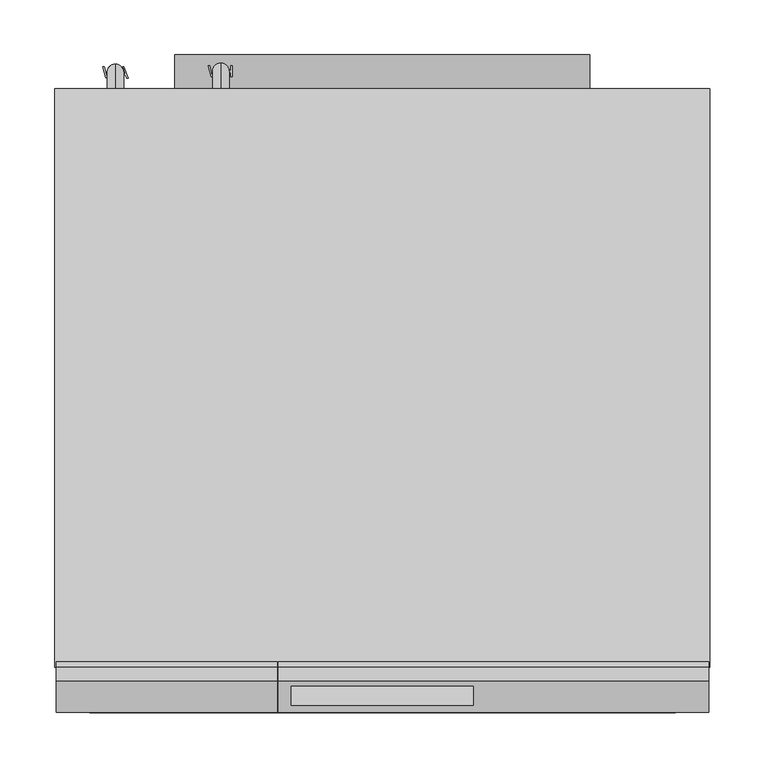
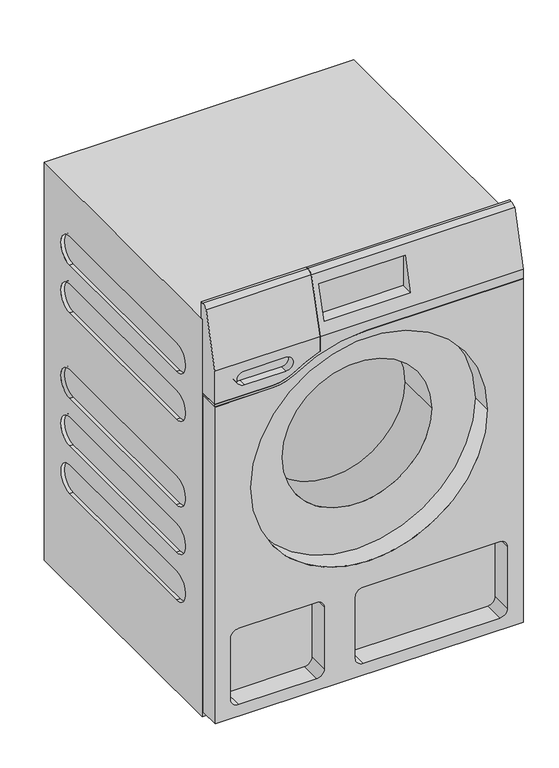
"""IFC4 building model written with IfcOpenShell, lengths in millimetres: proxy geometry, 10994900_RU_WCR870WPS_LW : 11CR8706_RU_10994900_WCR870WPS_LW."""

from ifc_helpers import new_model, si_unit, point, frame, frame_2d, origin, origin_with_axes, place, context, project, spatial, polyline, circle_curve, ellipse_curve, trimmed, segment, composite_curve, outline, extrude, source, transform, mapped, element, save
from ifc_brep_helpers import plane_surface, cylinder_surface, revolved_surface, advanced_brep


def specialty_equipment_badbdaf0(model_context):
    return source(origin(), model_context, "Body", "SolidModel", [
        advanced_brep(
        [(-185.7266361, -600.0, 669.0), (-185.7266361, -560.0, 669.0), (-147.869315, -560.0, 679.5792254), (-147.869315, -600.0, 679.5792254), (-95.5, -560.0, 706.6365191), (-95.5, -600.0, 706.6365191), (-297.0, -554.0, 850.0), (-297.0, -554.0, 818.0), (-297.0, -560.0, 818.0), (-297.0, -560.0, 669.0), (-297.0, -600.0, 669.0), (-297.0, -600.0, 736.159111), (-297.0, -570.9595268, 844.5396324), (-297.0, -558.3743789, 850.0), (-95.5, -558.3743789, 850.0), (-95.5, -554.0, 850.0), (-95.5, -600.0, 736.159111), (-240.5, -600.0, 717.0), (-160.5, -600.0, 717.0), (-160.5, -600.0, 689.0), (-240.5, -600.0, 689.0), (-95.5, -560.0, 818.0), (-95.5, -554.0, 818.0), (-95.5, -570.9595268, 844.5396324), (-160.5, -585.0, 717.0), (-240.5, -585.0, 717.0), (-240.5, -585.0, 689.0), (-160.5, -585.0, 689.0)],
        [
            (0, 1),
            (1, 2, circle_curve(frame((-185.7266361, -560.0, 742.0250428), z_axis=(0.0, -1.0, 0.0), x_axis=(-1.0, 0.0, 0.0)), 73.0250428)),
            (2, 3),
            (3, 0, circle_curve(frame((-185.7266361, -600.0, 742.0250428), z_axis=(0.0, 1.0, 0.0), x_axis=(-1.0, 0.0, 0.0)), 73.0250428)),
            (2, 4, circle_curve(frame((-5.7577941, -560.0, 468.7317583), z_axis=(0.0, 1.0, 0.0), x_axis=(-1.0, 0.0, 0.0)), 254.2682417)),
            (4, 5),
            (5, 3, circle_curve(frame((-5.7577941, -600.0, 468.7317583), z_axis=(0.0, -1.0, 0.0), x_axis=(-1.0, 0.0, 0.0)), 254.2682417)),
            (6, 7),
            (7, 8),
            (8, 9),
            (9, 10),
            (10, 11),
            (11, 12),
            (12, 13, circle_curve(frame((-297.0, -558.3480923, 832.7059991), z_axis=(-1.0, 0.0, 0.0), x_axis=(0.0, 0.0, 1.0)), 17.2940209)),
            (13, 6),
            (13, 14),
            (14, 15),
            (15, 6),
            (10, 0),
            (5, 16),
            (16, 11),
            (17, 18),
            (18, 19, circle_curve(frame((-160.5, -600.0, 703.0), z_axis=(0.0, 1.0, 0.0), x_axis=(-1.0, 0.0, 0.0)), 14.0)),
            (19, 20),
            (20, 17, circle_curve(frame((-240.5, -600.0, 703.0), z_axis=(0.0, 1.0, 0.0), x_axis=(-1.0, 0.0, 0.0)), 14.0)),
            (8, 21),
            (21, 4),
            (1, 9),
            (7, 22),
            (22, 21),
            (15, 22),
            (12, 23),
            (23, 14, circle_curve(frame((-95.5, -558.3480923, 832.7059991), z_axis=(-1.0, 0.0, 0.0), x_axis=(0.0, 0.0, 1.0)), 17.2940209)),
            (24, 25),
            (25, 26, circle_curve(frame((-240.5, -585.0, 703.0), z_axis=(0.0, -1.0, 0.0), x_axis=(-1.0, 0.0, 0.0)), 14.0)),
            (26, 27),
            (27, 24, circle_curve(frame((-160.5, -585.0, 703.0), z_axis=(0.0, -1.0, 0.0), x_axis=(-1.0, 0.0, 0.0)), 14.0)),
            (24, 18),
            (17, 25),
            (20, 26),
            (19, 27),
            (23, 16),
        ],
        [
            cylinder_surface(frame((-185.7266361, -600.0, 742.0250428), z_axis=(0.0, -1.0, 0.0), x_axis=(-1.0, 0.0, 0.0)), 73.0250428),
            revolved_surface(polyline([(-260.0260358, -560.0, 468.7317583), (-260.0260358, -600.0, 468.7317583)]), (-5.7577941, -600.0, 468.7317583), (0.0, 1.0, 0.0)),
            plane_surface(frame((-297.0, -558.3743789, 850.0), z_axis=(-1.0, 0.0, 0.0), x_axis=(0.0, 1.0, 0.0))),
            plane_surface(frame((297.0, -554.0, 850.0), z_axis=(0.0, 0.0, 1.0), x_axis=(-1.0, 0.0, 0.0))),
            plane_surface(frame((297.0, -600.0, 736.159111), z_axis=(0.0, -1.0, 0.0), x_axis=(-1.0, 0.0, 0.0))),
            plane_surface(frame((297.0, -560.0, 658.0), z_axis=(0.0, 1.0, 0.0), x_axis=(-1.0, 0.0, 0.0))),
            plane_surface(frame((297.0, -560.0, 818.0), z_axis=(0.0, 0.0, -1.0), x_axis=(-1.0, 0.0, 0.0))),
            plane_surface(frame((297.0, -554.0, 818.0), z_axis=(0.0, 1.0, 0.0), x_axis=(-1.0, 0.0, 0.0))),
            cylinder_surface(frame((-297.0, -558.3480923, 832.7059991), z_axis=(1.0, 0.0, 0.0), x_axis=(0.0, 0.0, 1.0)), 17.2940209),
            plane_surface(frame((-174.5, -585.0, 703.0), z_axis=(0.0, -1.0, 0.0), x_axis=(0.0, 0.0, 1.0))),
            plane_surface(frame((-240.5, -585.0, 717.0), z_axis=(0.0, 0.0, -1.0), x_axis=(0.0, -1.0, 0.0))),
            revolved_surface(polyline([(-254.5, -585.0, 703.0), (-254.5, -600.0, 703.0)]), (-240.5, -625.7120467, 703.0), (0.0, 1.0, 0.0)),
            plane_surface(frame((-160.5, -585.0, 689.0), z_axis=(0.0, 0.0, 1.0), x_axis=(0.0, -1.0, 0.0))),
            revolved_surface(polyline([(-174.5, -585.0, 703.0), (-174.5, -600.0, 703.0)]), (-160.5, -625.7120467, 703.0), (0.0, 1.0, 0.0)),
            plane_surface(frame((-95.5, -547.2464252, 706.6365191), z_axis=(1.0, 0.0, 0.0), x_axis=(0.0, -1.0, 0.0))),
            plane_surface(frame((297.0, -570.9595268, 844.5396324), z_axis=(0.0, -0.9659258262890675, 0.25881904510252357), x_axis=(-1.0, 0.0, 0.0))),
            plane_surface(frame((-297.0, -547.2464252, 669.0), z_axis=(0.0, 0.0, -1.0), x_axis=(0.0, -1.0, 0.0))),
        ],
        [
            (0, [[1, 2, 3, 4]]),
            (1, [[-3, 5, 6, 7]]),
            (2, [[8, 9, 10, 11, 12, 13, 14, 15]]),
            (3, [[-15, 16, 17, 18]]),
            (4, [[-12, 19, -4, -7, 20, 21], [22, 23, 24, 25]]),
            (5, [[-10, 26, 27, -5, -2, 28]]),
            (6, [[-9, 29, 30, -26]]),
            (7, [[-8, -18, 31, -29]]),
            (8, [[-14, 32, 33, -16]]),
            (9, [[34, 35, 36, 37]]),
            (10, [[-34, 38, -22, 39]]),
            (11, [[-35, -39, -25, 40]]),
            (12, [[-36, -40, -24, 41]]),
            (13, [[-37, -41, -23, -38]]),
            (14, [[-6, -27, -30, -31, -17, -33, 42, -20]]),
            (15, [[-13, -21, -42, -32]]),
            (16, [[-1, -19, -11, -28]]),
        ],
    ),
        advanced_brep(
        [(297.0, -554.0, 850.0), (297.0, -558.3743789, 850.0), (297.0, -570.9595268, 844.5396324), (297.0, -600.0, 736.159111), (297.0, -600.0, 718.0), (297.0, -560.0, 718.0), (297.0, -560.0, 818.0), (297.0, -554.0, 818.0), (-297.0, -560.0, 664.0), (-297.0, -600.0, 664.0), (-297.0, -600.0, 668.0), (-297.0, -560.0, 668.0), (-94.5, -554.0, 850.0), (-94.5, -558.3743789, 850.0), (-94.5, -600.0, 736.159111), (-94.5, -600.0, 705.9439484), (-147.3302559, -600.0, 678.7366161), (-185.7266361, -600.0, 668.0), (-186.2266361, -600.0, 664.0), (-145.1722991, -600.0, 675.3673121), (-5.7577941, -600.0, 718.0), (-5.7577941, -560.0, 718.0), (-145.1722991, -560.0, 675.3673121), (-186.2266361, -560.0, 664.0), (-185.7266361, -560.0, 668.0), (-147.3302559, -560.0, 678.7366161), (-94.5, -560.0, 705.9439484), (-94.5, -560.0, 818.0), (-94.5, -554.0, 818.0), (-94.5, -570.9595268, 844.5396324), (83.0, -570.0, 825.0), (-83.0, -570.0, 825.0), (-83.0, -570.0, 760.0), (83.0, -570.0, 760.0), (83.0, -593.611853, 760.0), (83.0, -576.1951555, 825.0), (-83.0, -593.611853, 760.0), (-83.0, -576.1951555, 825.0)],
        [
            (0, 1),
            (1, 2, circle_curve(frame((297.0, -558.3480923, 832.7059991), z_axis=(1.0, 0.0, 0.0), x_axis=(0.0, 0.0, 1.0)), 17.2940209)),
            (2, 3),
            (3, 4),
            (4, 5),
            (5, 6),
            (6, 7),
            (7, 0),
            (8, 9),
            (9, 10),
            (10, 11),
            (11, 8),
            (0, 12),
            (12, 13),
            (13, 1),
            (3, 14),
            (14, 15),
            (15, 16, circle_curve(frame((-5.7577941, -600.0, 468.7317583), z_axis=(0.0, -1.0, 0.0), x_axis=(-1.0, 0.0, 0.0)), 253.2682417)),
            (16, 17, circle_curve(frame((-185.7266361, -600.0, 742.0250428), z_axis=(0.0, 1.0, 0.0), x_axis=(-1.0, 0.0, 0.0)), 74.0250428)),
            (17, 10),
            (9, 18),
            (18, 19, circle_curve(frame((-186.2266361, -600.0, 743.8198531), z_axis=(0.0, -1.0, 0.0), x_axis=(-1.0, 0.0, 0.0)), 79.8198531)),
            (19, 20, circle_curve(frame((-5.7577941, -600.0, 468.7317583), z_axis=(0.0, 1.0, 0.0), x_axis=(-1.0, 0.0, 0.0)), 249.2682417)),
            (20, 4),
            (5, 21),
            (21, 22, circle_curve(frame((-5.7577941, -560.0, 468.7317583), z_axis=(0.0, -1.0, 0.0), x_axis=(-1.0, 0.0, 0.0)), 249.2682417)),
            (22, 23, circle_curve(frame((-186.2266361, -560.0, 743.8198531), z_axis=(0.0, 1.0, 0.0), x_axis=(-1.0, 0.0, 0.0)), 79.8198531)),
            (23, 8),
            (11, 24),
            (24, 25, circle_curve(frame((-185.7266361, -560.0, 742.0250428), z_axis=(0.0, -1.0, 0.0), x_axis=(-1.0, 0.0, 0.0)), 74.0250428)),
            (25, 26, circle_curve(frame((-5.7577941, -560.0, 468.7317583), z_axis=(0.0, 1.0, 0.0), x_axis=(-1.0, 0.0, 0.0)), 253.2682417)),
            (26, 27),
            (27, 6),
            (27, 28),
            (28, 7),
            (28, 12),
            (19, 22),
            (21, 20),
            (13, 29, circle_curve(frame((-94.5, -558.3480923, 832.7059991), z_axis=(1.0, 0.0, 0.0), x_axis=(0.0, 0.0, 1.0)), 17.2940209)),
            (29, 2),
            (26, 15),
            (14, 29),
            (30, 31),
            (31, 32),
            (32, 33),
            (33, 30),
            (33, 34),
            (34, 35),
            (35, 30),
            (32, 36),
            (36, 34),
            (31, 37),
            (37, 36),
            (35, 37),
            (18, 23),
            (25, 16),
            (24, 17),
        ],
        [
            plane_surface(frame((297.0, -558.3743789, 850.0), z_axis=(1.0, 0.0, 0.0), x_axis=(0.0, -1.0, 0.0))),
            plane_surface(frame((-297.0, -558.3743789, 850.0), z_axis=(-1.0, 0.0, 0.0), x_axis=(0.0, 1.0, 0.0))),
            plane_surface(frame((297.0, -554.0, 850.0), z_axis=(0.0, 0.0, 1.0), x_axis=(-1.0, 0.0, 0.0))),
            plane_surface(frame((297.0, -600.0, 736.159111), z_axis=(0.0, -1.0, 0.0), x_axis=(-1.0, 0.0, 0.0))),
            plane_surface(frame((297.0, -560.0, 658.0), z_axis=(0.0, 1.0, 0.0), x_axis=(-1.0, 0.0, 0.0))),
            plane_surface(frame((297.0, -560.0, 818.0), z_axis=(0.0, 0.0, -1.0), x_axis=(-1.0, 0.0, 0.0))),
            plane_surface(frame((297.0, -554.0, 818.0), z_axis=(0.0, 1.0, 0.0), x_axis=(-1.0, 0.0, 0.0))),
            revolved_surface(polyline([(-255.02603580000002, -560.0, 468.7317583), (-255.02603580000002, -600.0, 468.7317583)]), (-5.7577941, -600.0, 468.7317583), (0.0, 1.0, 0.0)),
            plane_surface(frame((-5.7577941, -537.827873, 718.0), z_axis=(0.0, 0.0, -1.0), x_axis=(0.0, -1.0, 0.0))),
            cylinder_surface(frame((-297.0, -558.3480923, 832.7059991), z_axis=(1.0, 0.0, 0.0), x_axis=(0.0, 0.0, 1.0)), 17.2940209),
            plane_surface(frame((-94.5, -547.2464252, 852.4552379), z_axis=(-1.0, 0.0, 0.0), x_axis=(0.0, -1.0, 0.0))),
            plane_surface(frame((83.0, -570.0, 825.0), z_axis=(0.0, -1.0, 0.0), x_axis=(0.0, 0.0, -1.0))),
            plane_surface(frame((83.0, -570.0, 825.0), z_axis=(-1.0, 0.0, 0.0), x_axis=(0.0, -1.0, 0.0))),
            plane_surface(frame((83.0, -570.0, 760.0), z_axis=(0.0, 0.0, 1.0), x_axis=(0.0, -1.0, 0.0))),
            plane_surface(frame((-83.0, -570.0, 760.0), z_axis=(1.0, 0.0, 0.0), x_axis=(0.0, -1.0, 0.0))),
            plane_surface(frame((-83.0, -570.0, 825.0), z_axis=(0.0, 0.0, -1.0), x_axis=(0.0, -1.0, 0.0))),
            plane_surface(frame((297.0, -570.9595268, 844.5396324), z_axis=(0.0, -0.9659258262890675, 0.25881904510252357), x_axis=(-1.0, 0.0, 0.0))),
            cylinder_surface(frame((-186.2266361, -600.0, 743.8198531), z_axis=(0.0, -1.0, 0.0), x_axis=(-1.0, 0.0, 0.0)), 79.8198531),
            plane_surface(frame((-297.0, -537.827873, 664.0), z_axis=(0.0, 0.0, -1.0), x_axis=(0.0, -1.0, 0.0))),
            cylinder_surface(frame((-5.7577941, -600.0, 468.7317583), z_axis=(0.0, -1.0, 0.0), x_axis=(-1.0, 0.0, 0.0)), 253.2682417),
            revolved_surface(polyline([(-259.7516789, -560.0, 742.0250428), (-259.7516789, -600.0, 742.0250428)]), (-185.7266361, -600.0, 742.0250428), (0.0, 1.0, 0.0)),
            plane_surface(frame((-185.7266361, -547.2464252, 668.0), z_axis=(0.0, 0.0, 1.0), x_axis=(0.0, -1.0, 0.0))),
        ],
        [
            (0, [[1, 2, 3, 4, 5, 6, 7, 8]]),
            (1, [[9, 10, 11, 12]]),
            (2, [[-1, 13, 14, 15]]),
            (3, [[-4, 16, 17, 18, 19, 20, -10, 21, 22, 23, 24]]),
            (4, [[-6, 25, 26, 27, 28, -12, 29, 30, 31, 32, 33]]),
            (5, [[-7, -33, 34, 35]]),
            (6, [[-8, -35, 36, -13]]),
            (7, [[37, -26, 38, -23]]),
            (8, [[-38, -25, -5, -24]]),
            (9, [[-2, -15, 39, 40]]),
            (10, [[41, -17, 42, -39, -14, -36, -34, -32]]),
            (11, [[43, 44, 45, 46]]),
            (12, [[-46, 47, 48, 49]]),
            (13, [[-45, 50, 51, -47]]),
            (14, [[-44, 52, 53, -50]]),
            (15, [[-43, -49, 54, -52]]),
            (16, [[-3, -40, -42, -16], [-48, -51, -53, -54]]),
            (17, [[55, -27, -37, -22]]),
            (18, [[-55, -21, -9, -28]]),
            (19, [[-41, -31, 56, -18]]),
            (20, [[-56, -30, 57, -19]]),
            (21, [[-57, -29, -11, -20]]),
        ],
    ),
        extrude(outline(composite_curve([segment(polyline([(663.5, -296.5), (18.0, -296.5), (18.0, 296.5), (717.5, 296.5), (717.5, -5.7577941)]), True, "CONTINUOUS"), segment(trimmed(circle_curve(frame_2d((468.7317583, -5.7577941)), 248.7682417), [point((717.5, -5.7577941))], [point((674.9462734, -144.9023658))], False, "CARTESIAN"), True, "CONTINUOUS"), segment(trimmed(circle_curve(frame_2d((742.0250428, -185.7266361)), 78.5250428), [point((674.9462734, -144.9023658))], [point((663.5, -185.7266361))], True, "CARTESIAN"), True, "CONTINUOUS"), segment(polyline([(663.5, -185.7266361), (663.5, -296.5)]), True, "CONTINUOUS")], self_intersect=False), holes=[composite_curve([segment(trimmed(circle_curve(frame_2d((475.0, 0.0)), 228.0), [point((475.0, -228.0))], [point((475.0, 228.0))], True, "CARTESIAN"), True, "CONTINUOUS"), segment(trimmed(circle_curve(frame_2d((475.0, 0.0)), 228.0), [point((475.0, 228.0))], [point((475.0, -228.0))], True, "CARTESIAN"), True, "CONTINUOUS")], self_intersect=False), composite_curve([segment(polyline([(182.0, 266.5), (57.0, 266.5)]), True, "CONTINUOUS"), segment(trimmed(circle_curve(frame_2d((57.0, 251.5)), 15.0), [point((57.0, 266.5))], [point((42.0, 251.5))], True, "CARTESIAN"), True, "CONTINUOUS"), segment(polyline([(42.0, 251.5), (42.0, -11.5)]), True, "CONTINUOUS"), segment(trimmed(circle_curve(frame_2d((57.0, -11.5)), 15.0), [point((42.0, -11.5))], [point((57.0, -26.5))], True, "CARTESIAN"), True, "CONTINUOUS"), segment(polyline([(57.0, -26.5), (182.0, -26.5)]), True, "CONTINUOUS"), segment(trimmed(circle_curve(frame_2d((182.0, -11.5)), 15.0), [point((182.0, -26.5))], [point((197.0, -11.5))], True, "CARTESIAN"), True, "CONTINUOUS"), segment(polyline([(197.0, -11.5), (197.0, 251.5)]), True, "CONTINUOUS"), segment(trimmed(circle_curve(frame_2d((182.0, 251.5)), 15.0), [point((197.0, 251.5))], [point((182.0, 266.5))], True, "CARTESIAN"), True, "CONTINUOUS")], self_intersect=False), composite_curve([segment(polyline([(182.0, -86.5), (57.0, -86.5)]), True, "CONTINUOUS"), segment(trimmed(circle_curve(frame_2d((57.0, -101.5)), 15.0), [point((57.0, -86.5))], [point((42.0, -101.5))], True, "CARTESIAN"), True, "CONTINUOUS"), segment(polyline([(42.0, -101.5), (42.0, -251.5)]), True, "CONTINUOUS"), segment(trimmed(circle_curve(frame_2d((57.0, -251.5)), 15.0), [point((42.0, -251.5))], [point((57.0, -266.5))], True, "CARTESIAN"), True, "CONTINUOUS"), segment(polyline([(57.0, -266.5), (182.0, -266.5)]), True, "CONTINUOUS"), segment(trimmed(circle_curve(frame_2d((182.0, -251.5)), 15.0), [point((182.0, -266.5))], [point((197.0, -251.5))], True, "CARTESIAN"), True, "CONTINUOUS"), segment(polyline([(197.0, -251.5), (197.0, -101.5)]), True, "CONTINUOUS"), segment(trimmed(circle_curve(frame_2d((182.0, -101.5)), 15.0), [point((197.0, -101.5))], [point((182.0, -86.5))], True, "CARTESIAN"), True, "CONTINUOUS")], self_intersect=False)]), frame((0.0, -600.0, 0.0), z_axis=(0.0, 1.0, 0.0), x_axis=(0.0, 0.0, 1.0)), (0.0, 0.0, 1.0), 40.0),
        extrude(outline(composite_curve([segment(trimmed(circle_curve(frame_2d((172.0, 0.0)), 85.0), [point((128.0, -72.7255113))], [point((128.0, 72.7255113))], False, "CARTESIAN"), True, "CONTINUOUS"), segment(polyline([(128.0, 72.7255113), (457.0, 186.7618805)]), True, "CONTINUOUS"), segment(trimmed(circle_curve(frame_2d((486.0, 0.0)), 189.0), [point((457.0, 186.7618805))], [point((457.0, -186.7618805))], False, "CARTESIAN"), True, "CONTINUOUS"), segment(polyline([(457.0, -186.7618805), (128.0, -72.7255113)]), True, "CONTINUOUS")], self_intersect=False)), frame((0.0, -32.0, 0.0), z_axis=(0.0, 1.0, 0.0), x_axis=(0.0, 0.0, 1.0)), (0.0, 0.0, 1.0), 31.0),
        extrude(outline(polyline([(-245.0283197, -21.9198802), (-247.6226621, -13.1308402), (-250.3496859, -21.9195554), (-251.6847859, -21.9195554), (-254.4297172, -11.8631004), (-253.1339679, -11.8631004), (-251.0443144, -20.5032988), (-248.5340813, -11.857379), (-246.6711164, -11.857379), (-244.1552565, -20.5022346), (-242.0681971, -11.8564437), (-240.7754796, -11.8564437), (-243.5175667, -21.9198802), (-245.0283197, -21.9198802)])), frame((0.0, 0.0, 722.0), z_axis=(0.0, 0.0, 1.0), x_axis=(1.0, 0.0, 0.0)), (0.0, 0.0, 1.0), 1.0),
        extrude(outline(polyline([(-239.0721098, -22.0032768), (-240.4069745, -22.0032768), (-236.3935979, -11.9549404), (-235.3188514, -11.9549404), (-231.3155433, -21.9958861), (-232.6216403, -21.9958861), (-233.7882604, -18.865268), (-237.929968, -18.865268), (-239.0721098, -22.0032768)]), holes=[polyline([(-237.4730851, -17.6099926), (-234.256037, -17.6099926), (-235.8835115, -13.2426749), (-237.4730851, -17.6099926)])]), frame((0.0, 0.0, 722.0), z_axis=(0.0, 0.0, 1.0), x_axis=(1.0, 0.0, 0.0)), (0.0, 0.0, 1.0), 1.0),
        extrude(outline(polyline([(-149.0371951, -21.0084005), (-151.6315375, -12.2193606), (-154.3585613, -21.0080758), (-155.6936613, -21.0080758), (-158.4385926, -10.9516208), (-157.1428433, -10.9516208), (-155.0531898, -19.5918192), (-152.5429567, -10.9458994), (-150.6799918, -10.9458994), (-148.1641319, -19.590755), (-146.0770725, -10.9449641), (-144.784355, -10.9449641), (-147.5264421, -21.0084005), (-149.0371951, -21.0084005)])), frame((0.0, 0.0, 728.0), z_axis=(0.0, 0.0, 1.0), x_axis=(1.0, 0.0, 0.0)), (0.0, 0.0, 1.0), 1.0),
        extrude(outline(polyline([(-137.7520367, -21.0), (-137.7520367, -17.5380382), (-139.4320631, -15.9333791), (-143.267056, -20.9969068), (-144.8092352, -20.9969068), (-140.3268814, -15.0786372), (-144.6471582, -10.9521715), (-142.8938795, -10.9521715), (-137.7520367, -15.8633471), (-137.7520367, -10.9502531), (-136.4793974, -10.9502531), (-136.4793974, -21.0), (-137.7520367, -21.0)])), frame((0.0, 0.0, 728.0), z_axis=(0.0, 0.0, 1.0), x_axis=(1.0, 0.0, 0.0)), (0.0, 0.0, 1.0), 1.0),
        advanced_brep(
        [(-243.0, -32.0, 760.5), (-243.0, -32.0, 745.5), (-243.0, -9.5, 760.5), (-243.0, -24.5, 745.5), (-243.0, -9.5, 723.0), (-243.0, -24.5, 723.0)],
        [
            (0, 1, circle_curve(frame((-243.0, -32.0, 753.0), z_axis=(0.0, -1.0, 0.0), x_axis=(0.0, 0.0, -1.0)), 7.5)),
            (1, 0, circle_curve(frame((-243.0, -32.0, 753.0), z_axis=(0.0, -1.0, 0.0), x_axis=(0.0, 0.0, -1.0)), 7.5)),
            (0, 2),
            (2, 3, ellipse_curve(frame((-243.0, -17.0, 753.0), z_axis=(0.0, -0.7071067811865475, 0.7071067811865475), x_axis=(0.0, -0.7071067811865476, -0.7071067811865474)), 10.6066017, 7.5)),
            (3, 1),
            (3, 2, ellipse_curve(frame((-243.0, -17.0, 753.0), z_axis=(0.0, -0.7071067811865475, 0.7071067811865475), x_axis=(0.0, -0.7071067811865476, -0.7071067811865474)), 10.6066017, 7.5)),
            (4, 5, circle_curve(frame((-243.0, -17.0, 723.0), z_axis=(0.0, 0.0, -1.0), x_axis=(0.0, -1.0, 0.0)), 7.5)),
            (5, 4, circle_curve(frame((-243.0, -17.0, 723.0), z_axis=(0.0, 0.0, -1.0), x_axis=(0.0, -1.0, 0.0)), 7.5)),
            (2, 4),
            (5, 3),
        ],
        [
            plane_surface(frame((-243.0, -32.0, 753.0), z_axis=(0.0, -1.0, 0.0), x_axis=(-1.0, 0.0, 0.0))),
            cylinder_surface(frame((-243.0, -32.0, 753.0), z_axis=(0.0, -1.0, 0.0), x_axis=(0.0, 0.0, -1.0)), 7.5),
            plane_surface(frame((-243.0, -17.0, 723.0), z_axis=(0.0, 0.0, -1.0), x_axis=(-1.0, 0.0, 0.0))),
            cylinder_surface(frame((-243.0, -17.0, 753.0), z_axis=(0.0, 0.0, 1.0), x_axis=(0.0, -1.0, 0.0)), 7.5),
        ],
        [
            (0, [[1, 2]]),
            (1, [[-1, 3, 4, 5]]),
            (1, [[-2, -5, 6, -3]]),
            (2, [[7, 8]]),
            (3, [[-4, 9, -8, 10]]),
            (3, [[-6, -10, -7, -9]]),
        ],
    ),
        advanced_brep(
        [(-147.0, -32.0, 766.5), (-147.0, -32.0, 751.5), (-147.0, -8.5, 766.5), (-147.0, -23.5, 751.5), (-147.0, -8.5, 729.0), (-147.0, -23.5, 729.0)],
        [
            (0, 1, circle_curve(frame((-147.0, -32.0, 759.0), z_axis=(0.0, -1.0, 0.0), x_axis=(0.0, 0.0, -1.0)), 7.5)),
            (1, 0, circle_curve(frame((-147.0, -32.0, 759.0), z_axis=(0.0, -1.0, 0.0), x_axis=(0.0, 0.0, -1.0)), 7.5)),
            (0, 2),
            (2, 3, ellipse_curve(frame((-147.0, -16.0, 759.0), z_axis=(0.0, -0.70710678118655, 0.707106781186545), x_axis=(0.0, -0.7071067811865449, -0.70710678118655)), 10.6066017, 7.5)),
            (3, 1),
            (3, 2, ellipse_curve(frame((-147.0, -16.0, 759.0), z_axis=(0.0, -0.70710678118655, 0.707106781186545), x_axis=(0.0, -0.7071067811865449, -0.70710678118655)), 10.6066017, 7.5)),
            (4, 5, circle_curve(frame((-147.0, -16.0, 729.0), z_axis=(0.0, 0.0, -1.0), x_axis=(0.0, -1.0, 0.0)), 7.5)),
            (5, 4, circle_curve(frame((-147.0, -16.0, 729.0), z_axis=(0.0, 0.0, -1.0), x_axis=(0.0, -1.0, 0.0)), 7.5)),
            (2, 4),
            (5, 3),
        ],
        [
            plane_surface(frame((-147.0, -32.0, 759.0), z_axis=(0.0, -1.0, 0.0), x_axis=(-1.0, 0.0, 0.0))),
            cylinder_surface(frame((-147.0, -32.0, 759.0), z_axis=(0.0, -1.0, 0.0), x_axis=(0.0, 0.0, -1.0)), 7.5),
            plane_surface(frame((-147.0, -16.0, 729.0), z_axis=(0.0, 0.0, -1.0), x_axis=(-1.0, 0.0, 0.0))),
            cylinder_surface(frame((-147.0, -16.0, 759.0), z_axis=(0.0, 0.0, 1.0), x_axis=(0.0, -1.0, 0.0)), 7.5),
        ],
        [
            (0, [[1, 2]]),
            (1, [[-1, 3, 4, 5]]),
            (1, [[-2, -5, 6, -3]]),
            (2, [[7, 8]]),
            (3, [[-4, 9, -8, 10]]),
            (3, [[-6, -10, -7, -9]]),
        ],
    ),
        extrude(outline(polyline([(-24.1489694, 55.8141378), (-30.1201763, 55.8141378), (-30.1201763, 52.8005704), (-24.4569949, 52.8005704), (-24.4569949, 51.521084), (-30.1201763, 51.521084), (-30.1201763, 48.2496698), (-23.9879713, 48.2496698), (-23.9879713, 46.9701834), (-31.3464231, 46.9701834), (-31.3464231, 57.0455767), (-24.1489694, 57.0455767), (-24.1489694, 55.8141378)])), frame((-91.0, 0.0, 0.0), z_axis=(1.0, 0.0, 0.0), x_axis=(0.0, 1.0, 0.0)), (0.0, 0.0, 1.0), 1.0),
        extrude(outline(polyline([(-20.8531587, 57.0429653), (-20.8531587, 48.2519801), (-15.8267296, 48.2519801), (-15.8267296, 46.9971234), (-22.1029105, 46.9971234), (-22.1029105, 57.0429653), (-20.8531587, 57.0429653)])), frame((-91.0, 0.0, 0.0), z_axis=(1.0, 0.0, 0.0), x_axis=(0.0, 1.0, 0.0)), (0.0, 0.0, 1.0), 1.0),
        extrude(outline(composite_curve([segment(trimmed(circle_curve(frame_2d((-24.5, 52.0)), 7.5), [point((-24.5, 44.5))], [point((-24.5, 59.5))], False, "CARTESIAN"), True, "CONTINUOUS"), segment(trimmed(circle_curve(frame_2d((-24.5, 52.0)), 7.5), [point((-24.5, 59.5))], [point((-24.5, 44.5))], False, "CARTESIAN"), True, "CONTINUOUS")], self_intersect=False)), frame((-121.0, 0.0, 0.0), z_axis=(1.0, 0.0, 0.0), x_axis=(0.0, 1.0, 0.0)), (0.0, 0.0, 1.0), 30.0),
        extrude(outline(polyline([(-157.0, -17.0), (-121.0, -17.0), (-121.0, -32.0), (-157.0, -32.0), (-157.0, -17.0)])), frame((0.0, 0.0, 38.5), z_axis=(0.0, 0.0, 1.0), x_axis=(1.0, 0.0, 0.0)), (0.0, 0.0, 1.0), 27.0),
        advanced_brep(
        [(298.0, -32.0, 818.0), (-298.0, -32.0, 818.0), (-298.0, -559.0, 818.0), (298.0, -559.0, 818.0), (298.0, -32.0, 8.0), (298.0, -559.0, 8.0), (-298.0, -559.0, 8.0), (-298.0, -32.0, 8.0), (-298.0, -117.0, 253.0), (-298.0, -474.0, 253.0), (-298.0, -474.0, 195.0), (-298.0, -117.0, 195.0), (-298.0, -117.0, 350.0), (-298.0, -474.0, 350.0), (-298.0, -474.0, 292.0), (-298.0, -117.0, 292.0), (-298.0, -474.0, 563.0), (-298.0, -117.0, 563.0), (-298.0, -117.0, 621.0), (-298.0, -474.0, 621.0), (-298.0, -117.0, 718.0), (-298.0, -474.0, 718.0), (-298.0, -474.0, 660.0), (-298.0, -117.0, 660.0), (-298.0, -117.0, 447.0), (-298.0, -474.0, 447.0), (-298.0, -474.0, 389.0), (-298.0, -117.0, 389.0), (144.0, -559.0, 482.0), (-144.0, -559.0, 482.0), (298.0, -474.0, 253.0), (298.0, -117.0, 253.0), (298.0, -117.0, 195.0), (298.0, -474.0, 195.0), (298.0, -474.0, 350.0), (298.0, -117.0, 350.0), (298.0, -117.0, 292.0), (298.0, -474.0, 292.0), (298.0, -117.0, 563.0), (298.0, -474.0, 563.0), (298.0, -474.0, 621.0), (298.0, -117.0, 621.0), (298.0, -474.0, 718.0), (298.0, -117.0, 718.0), (298.0, -117.0, 660.0), (298.0, -474.0, 660.0), (298.0, -474.0, 447.0), (298.0, -117.0, 447.0), (298.0, -117.0, 389.0), (298.0, -474.0, 389.0), (291.0, -117.0, 253.0), (291.0, -474.0, 253.0), (291.0, -474.0, 195.0), (291.0, -117.0, 195.0), (291.0, -117.0, 350.0), (291.0, -474.0, 350.0), (291.0, -474.0, 292.0), (291.0, -117.0, 292.0), (291.0, -474.0, 563.0), (291.0, -117.0, 563.0), (291.0, -117.0, 621.0), (291.0, -474.0, 621.0), (291.0, -117.0, 718.0), (291.0, -474.0, 718.0), (291.0, -474.0, 660.0), (291.0, -117.0, 660.0), (-291.0, -117.0, 253.0), (-291.0, -117.0, 195.0), (-291.0, -474.0, 195.0), (-291.0, -474.0, 253.0), (-291.0, -117.0, 350.0), (-291.0, -117.0, 292.0), (-291.0, -474.0, 292.0), (-291.0, -474.0, 350.0), (-291.0, -474.0, 563.0), (-291.0, -474.0, 621.0), (-291.0, -117.0, 621.0), (-291.0, -117.0, 563.0), (-291.0, -117.0, 718.0), (-291.0, -117.0, 660.0), (-291.0, -474.0, 660.0), (-291.0, -474.0, 718.0), (-144.0, -471.0, 482.0), (144.0, -471.0, 482.0), (240.0, -148.0, 482.0), (-240.0, -148.0, 482.0), (240.0, -471.0, 482.0), (-240.0, -471.0, 482.0), (291.0, -117.0, 447.0), (291.0, -474.0, 447.0), (291.0, -474.0, 389.0), (291.0, -117.0, 389.0), (-291.0, -117.0, 447.0), (-291.0, -117.0, 389.0), (-291.0, -474.0, 389.0), (-291.0, -474.0, 447.0)],
        [
            (0, 1),
            (1, 2),
            (2, 3),
            (3, 0),
            (4, 5),
            (5, 6),
            (6, 7),
            (7, 4),
            (0, 4),
            (7, 1),
            (6, 2),
            (8, 9),
            (9, 10, circle_curve(frame((-298.0, -474.0, 224.0), z_axis=(1.0, 0.0, 0.0), x_axis=(0.0, 0.0, 1.0)), 29.0)),
            (10, 11),
            (11, 8, circle_curve(frame((-298.0, -117.0, 224.0), z_axis=(1.0, 0.0, 0.0), x_axis=(0.0, 0.0, 1.0)), 29.0)),
            (12, 13),
            (13, 14, circle_curve(frame((-298.0, -474.0, 321.0), z_axis=(1.0, 0.0, 0.0), x_axis=(0.0, 0.0, 1.0)), 29.0)),
            (14, 15),
            (15, 12, circle_curve(frame((-298.0, -117.0, 321.0), z_axis=(1.0, 0.0, 0.0), x_axis=(0.0, 0.0, 1.0)), 29.0)),
            (16, 17),
            (17, 18, circle_curve(frame((-298.0, -117.0, 592.0), z_axis=(1.0, 0.0, 0.0), x_axis=(0.0, 0.0, 1.0)), 29.0)),
            (18, 19),
            (19, 16, circle_curve(frame((-298.0, -474.0, 592.0), z_axis=(1.0, 0.0, 0.0), x_axis=(0.0, 0.0, 1.0)), 29.0)),
            (20, 21),
            (21, 22, circle_curve(frame((-298.0, -474.0, 689.0), z_axis=(1.0, 0.0, 0.0), x_axis=(0.0, 0.0, 1.0)), 29.0)),
            (22, 23),
            (23, 20, circle_curve(frame((-298.0, -117.0, 689.0), z_axis=(1.0, 0.0, 0.0), x_axis=(0.0, 0.0, 1.0)), 29.0)),
            (24, 25),
            (25, 26, circle_curve(frame((-298.0, -474.0, 418.0), z_axis=(1.0, 0.0, 0.0), x_axis=(0.0, 0.0, -1.0)), 29.0)),
            (26, 27),
            (27, 24, circle_curve(frame((-298.0, -117.0, 418.0), z_axis=(1.0, 0.0, 0.0), x_axis=(0.0, 0.0, -1.0)), 29.0)),
            (5, 3),
            (28, 29, circle_curve(frame((0.0, -559.0, 482.0), z_axis=(0.0, 1.0, 0.0), x_axis=(-1.0, 0.0, 0.0)), 144.0)),
            (29, 28, circle_curve(frame((0.0, -559.0, 482.0), z_axis=(0.0, 1.0, 0.0), x_axis=(-1.0, 0.0, 0.0)), 144.0)),
            (30, 31),
            (31, 32, circle_curve(frame((298.0, -117.0, 224.0), z_axis=(-1.0, 0.0, 0.0), x_axis=(0.0, 0.0, 1.0)), 29.0)),
            (32, 33),
            (33, 30, circle_curve(frame((298.0, -474.0, 224.0), z_axis=(-1.0, 0.0, 0.0), x_axis=(0.0, 0.0, 1.0)), 29.0)),
            (34, 35),
            (35, 36, circle_curve(frame((298.0, -117.0, 321.0), z_axis=(-1.0, 0.0, 0.0), x_axis=(0.0, 0.0, 1.0)), 29.0)),
            (36, 37),
            (37, 34, circle_curve(frame((298.0, -474.0, 321.0), z_axis=(-1.0, 0.0, 0.0), x_axis=(0.0, 0.0, 1.0)), 29.0)),
            (38, 39),
            (39, 40, circle_curve(frame((298.0, -474.0, 592.0), z_axis=(-1.0, 0.0, 0.0), x_axis=(0.0, 0.0, 1.0)), 29.0)),
            (40, 41),
            (41, 38, circle_curve(frame((298.0, -117.0, 592.0), z_axis=(-1.0, 0.0, 0.0), x_axis=(0.0, 0.0, 1.0)), 29.0)),
            (42, 43),
            (43, 44, circle_curve(frame((298.0, -117.0, 689.0), z_axis=(-1.0, 0.0, 0.0), x_axis=(0.0, 0.0, 1.0)), 29.0)),
            (44, 45),
            (45, 42, circle_curve(frame((298.0, -474.0, 689.0), z_axis=(-1.0, 0.0, 0.0), x_axis=(0.0, 0.0, 1.0)), 29.0)),
            (46, 47),
            (47, 48, circle_curve(frame((298.0, -117.0, 418.0), z_axis=(-1.0, 0.0, 0.0), x_axis=(0.0, 0.0, -1.0)), 29.0)),
            (48, 49),
            (49, 46, circle_curve(frame((298.0, -474.0, 418.0), z_axis=(-1.0, 0.0, 0.0), x_axis=(0.0, 0.0, -1.0)), 29.0)),
            (50, 51),
            (51, 52, circle_curve(frame((291.0, -474.0, 224.0), z_axis=(1.0, 0.0, 0.0), x_axis=(0.0, 0.0, 1.0)), 29.0)),
            (52, 53),
            (53, 50, circle_curve(frame((291.0, -117.0, 224.0), z_axis=(1.0, 0.0, 0.0), x_axis=(0.0, 0.0, 1.0)), 29.0)),
            (54, 55),
            (55, 56, circle_curve(frame((291.0, -474.0, 321.0), z_axis=(1.0, 0.0, 0.0), x_axis=(0.0, 0.0, 1.0)), 29.0)),
            (56, 57),
            (57, 54, circle_curve(frame((291.0, -117.0, 321.0), z_axis=(1.0, 0.0, 0.0), x_axis=(0.0, 0.0, 1.0)), 29.0)),
            (58, 59),
            (59, 60, circle_curve(frame((291.0, -117.0, 592.0), z_axis=(1.0, 0.0, 0.0), x_axis=(0.0, 0.0, 1.0)), 29.0)),
            (60, 61),
            (61, 58, circle_curve(frame((291.0, -474.0, 592.0), z_axis=(1.0, 0.0, 0.0), x_axis=(0.0, 0.0, 1.0)), 29.0)),
            (62, 63),
            (63, 64, circle_curve(frame((291.0, -474.0, 689.0), z_axis=(1.0, 0.0, 0.0), x_axis=(0.0, 0.0, 1.0)), 29.0)),
            (64, 65),
            (65, 62, circle_curve(frame((291.0, -117.0, 689.0), z_axis=(1.0, 0.0, 0.0), x_axis=(0.0, 0.0, 1.0)), 29.0)),
            (50, 31),
            (30, 51),
            (33, 52),
            (32, 53),
            (54, 35),
            (34, 55),
            (37, 56),
            (36, 57),
            (58, 39),
            (38, 59),
            (41, 60),
            (40, 61),
            (62, 43),
            (42, 63),
            (45, 64),
            (44, 65),
            (66, 67, circle_curve(frame((-291.0, -117.0, 224.0), z_axis=(-1.0, 0.0, 0.0), x_axis=(0.0, 0.0, 1.0)), 29.0)),
            (67, 68),
            (68, 69, circle_curve(frame((-291.0, -474.0, 224.0), z_axis=(-1.0, 0.0, 0.0), x_axis=(0.0, 0.0, 1.0)), 29.0)),
            (69, 66),
            (70, 71, circle_curve(frame((-291.0, -117.0, 321.0), z_axis=(-1.0, 0.0, 0.0), x_axis=(0.0, 0.0, 1.0)), 29.0)),
            (71, 72),
            (72, 73, circle_curve(frame((-291.0, -474.0, 321.0), z_axis=(-1.0, 0.0, 0.0), x_axis=(0.0, 0.0, 1.0)), 29.0)),
            (73, 70),
            (74, 75, circle_curve(frame((-291.0, -474.0, 592.0), z_axis=(-1.0, 0.0, 0.0), x_axis=(0.0, 0.0, 1.0)), 29.0)),
            (75, 76),
            (76, 77, circle_curve(frame((-291.0, -117.0, 592.0), z_axis=(-1.0, 0.0, 0.0), x_axis=(0.0, 0.0, 1.0)), 29.0)),
            (77, 74),
            (78, 79, circle_curve(frame((-291.0, -117.0, 689.0), z_axis=(-1.0, 0.0, 0.0), x_axis=(0.0, 0.0, 1.0)), 29.0)),
            (79, 80),
            (80, 81, circle_curve(frame((-291.0, -474.0, 689.0), z_axis=(-1.0, 0.0, 0.0), x_axis=(0.0, 0.0, 1.0)), 29.0)),
            (81, 78),
            (69, 9),
            (8, 66),
            (68, 10),
            (67, 11),
            (73, 13),
            (12, 70),
            (72, 14),
            (71, 15),
            (77, 17),
            (16, 74),
            (76, 18),
            (75, 19),
            (81, 21),
            (20, 78),
            (80, 22),
            (79, 23),
            (82, 29),
            (28, 83),
            (83, 82, circle_curve(frame((0.0, -471.0, 482.0), z_axis=(0.0, 1.0, 0.0), x_axis=(-1.0, 0.0, 0.0)), 144.0)),
            (82, 83, circle_curve(frame((0.0, -471.0, 482.0), z_axis=(0.0, 1.0, 0.0), x_axis=(-1.0, 0.0, 0.0)), 144.0)),
            (84, 85, circle_curve(frame((0.0, -148.0, 482.0), z_axis=(0.0, -1.0, 0.0), x_axis=(-1.0, 0.0, 0.0)), 240.0)),
            (85, 84, circle_curve(frame((0.0, -148.0, 482.0), z_axis=(0.0, -1.0, 0.0), x_axis=(-1.0, 0.0, 0.0)), 240.0)),
            (86, 87, circle_curve(frame((0.0, -471.0, 482.0), z_axis=(0.0, 1.0, 0.0), x_axis=(-1.0, 0.0, 0.0)), 240.0)),
            (87, 86, circle_curve(frame((0.0, -471.0, 482.0), z_axis=(0.0, 1.0, 0.0), x_axis=(-1.0, 0.0, 0.0)), 240.0)),
            (85, 87),
            (86, 84),
            (88, 89),
            (89, 90, circle_curve(frame((291.0, -474.0, 418.0), z_axis=(1.0, 0.0, 0.0), x_axis=(0.0, 0.0, -1.0)), 29.0)),
            (90, 91),
            (91, 88, circle_curve(frame((291.0, -117.0, 418.0), z_axis=(1.0, 0.0, 0.0), x_axis=(0.0, 0.0, -1.0)), 29.0)),
            (88, 47),
            (46, 89),
            (49, 90),
            (48, 91),
            (92, 93, circle_curve(frame((-291.0, -117.0, 418.0), z_axis=(-1.0, 0.0, 0.0), x_axis=(0.0, 0.0, -1.0)), 29.0)),
            (93, 94),
            (94, 95, circle_curve(frame((-291.0, -474.0, 418.0), z_axis=(-1.0, 0.0, 0.0), x_axis=(0.0, 0.0, -1.0)), 29.0)),
            (95, 92),
            (95, 25),
            (24, 92),
            (94, 26),
            (93, 27),
        ],
        [
            plane_surface(frame((-298.0, -32.0, 818.0), z_axis=(0.0, 0.0, 1.0), x_axis=(-1.0, 0.0, 0.0))),
            plane_surface(frame((-298.0, -32.0, 8.0), z_axis=(0.0, 0.0, -1.0), x_axis=(1.0, 0.0, 0.0))),
            plane_surface(frame((298.0, -32.0, 818.0), z_axis=(0.0, 1.0, 0.0), x_axis=(0.0, 0.0, -1.0))),
            plane_surface(frame((-298.0, -32.0, 818.0), z_axis=(-1.0, 0.0, 0.0), x_axis=(0.0, 0.0, -1.0))),
            plane_surface(frame((-298.0, -559.0, 818.0), z_axis=(0.0, -1.0, 0.0), x_axis=(0.0, 0.0, -1.0))),
            plane_surface(frame((298.0, -559.0, 818.0), z_axis=(1.0, 0.0, 0.0), x_axis=(0.0, 0.0, -1.0))),
            plane_surface(frame((291.0, -474.0, 253.0), z_axis=(1.0, 0.0, 0.0), x_axis=(0.0, 1.0, 0.0))),
            plane_surface(frame((298.0, -117.0, 253.0), z_axis=(0.0, 0.0, -1.0), x_axis=(-1.0, 0.0, 0.0))),
            revolved_surface(polyline([(298.0, -474.0, 253.0), (291.0, -474.0, 253.0)]), (291.0, -474.0, 224.0), (1.0, 0.0, 0.0)),
            plane_surface(frame((298.0, -474.0, 195.0), z_axis=(0.0, 0.0, 1.0), x_axis=(-1.0, 0.0, 0.0))),
            revolved_surface(polyline([(298.0, -117.0, 253.0), (291.0, -117.0, 253.0)]), (291.0, -117.0, 224.0), (1.0, 0.0, 0.0)),
            plane_surface(frame((298.0, -117.0, 350.0), z_axis=(0.0, 0.0, -1.0), x_axis=(-1.0, 0.0, 0.0))),
            revolved_surface(polyline([(298.0, -474.0, 350.0), (291.0, -474.0, 350.0)]), (298.0, -474.0, 321.0), (1.0, 0.0, 0.0)),
            plane_surface(frame((298.0, -474.0, 292.0), z_axis=(0.0, 0.0, 1.0), x_axis=(-1.0, 0.0, 0.0))),
            revolved_surface(polyline([(298.0, -117.0, 350.0), (291.0, -117.0, 350.0)]), (298.0, -117.0, 321.0), (1.0, 0.0, 0.0)),
            plane_surface(frame((298.0, -474.0, 563.0), z_axis=(0.0, 0.0, 1.0), x_axis=(-1.0, 0.0, 0.0))),
            revolved_surface(polyline([(298.0, -117.0, 621.0), (291.0, -117.0, 621.0)]), (298.0, -117.0, 592.0), (1.0, 0.0, 0.0)),
            plane_surface(frame((298.0, -117.0, 621.0), z_axis=(0.0, 0.0, -1.0), x_axis=(-1.0, 0.0, 0.0))),
            revolved_surface(polyline([(298.0, -474.0, 621.0), (291.0, -474.0, 621.0)]), (298.0, -474.0, 592.0), (1.0, 0.0, 0.0)),
            plane_surface(frame((298.0, -117.0, 718.0), z_axis=(0.0, 0.0, -1.0), x_axis=(-1.0, 0.0, 0.0))),
            revolved_surface(polyline([(298.0, -474.0, 718.0), (291.0, -474.0, 718.0)]), (298.0, -474.0, 689.0), (1.0, 0.0, 0.0)),
            plane_surface(frame((298.0, -474.0, 660.0), z_axis=(0.0, 0.0, 1.0), x_axis=(-1.0, 0.0, 0.0))),
            revolved_surface(polyline([(298.0, -117.0, 718.0), (291.0, -117.0, 718.0)]), (298.0, -117.0, 689.0), (1.0, 0.0, 0.0)),
            plane_surface(frame((-291.0, -474.0, 253.0), z_axis=(-1.0, 0.0, 0.0), x_axis=(0.0, -1.0, 0.0))),
            plane_surface(frame((-291.0, -117.0, 253.0), z_axis=(0.0, 0.0, -1.0), x_axis=(-1.0, 0.0, 0.0))),
            revolved_surface(polyline([(-291.0, -474.0, 253.0), (-298.0, -474.0, 253.0)]), (-298.0, -474.0, 224.0), (1.0, 0.0, 0.0)),
            plane_surface(frame((-291.0, -474.0, 195.0), z_axis=(0.0, 0.0, 1.0), x_axis=(-1.0, 0.0, 0.0))),
            revolved_surface(polyline([(-291.0, -117.0, 253.0), (-298.0, -117.0, 253.0)]), (-298.0, -117.0, 224.0), (1.0, 0.0, 0.0)),
            plane_surface(frame((-291.0, -117.0, 350.0), z_axis=(0.0, 0.0, -1.0), x_axis=(-1.0, 0.0, 0.0))),
            revolved_surface(polyline([(-291.0, -474.0, 350.0), (-298.0, -474.0, 350.0)]), (-298.0, -474.0, 321.0), (1.0, 0.0, 0.0)),
            plane_surface(frame((-291.0, -474.0, 292.0), z_axis=(0.0, 0.0, 1.0), x_axis=(-1.0, 0.0, 0.0))),
            revolved_surface(polyline([(-291.0, -117.0, 350.0), (-298.0, -117.0, 350.0)]), (-298.0, -117.0, 321.0), (1.0, 0.0, 0.0)),
            plane_surface(frame((-291.0, -474.0, 563.0), z_axis=(0.0, 0.0, 1.0), x_axis=(-1.0, 0.0, 0.0))),
            revolved_surface(polyline([(-291.0, -117.0, 621.0), (-298.0, -117.0, 621.0)]), (-298.0, -117.0, 592.0), (1.0, 0.0, 0.0)),
            plane_surface(frame((-291.0, -117.0, 621.0), z_axis=(0.0, 0.0, -1.0), x_axis=(-1.0, 0.0, 0.0))),
            revolved_surface(polyline([(-291.0, -474.0, 621.0), (-298.0, -474.0, 621.0)]), (-298.0, -474.0, 592.0), (1.0, 0.0, 0.0)),
            plane_surface(frame((-291.0, -117.0, 718.0), z_axis=(0.0, 0.0, -1.0), x_axis=(-1.0, 0.0, 0.0))),
            revolved_surface(polyline([(-291.0, -474.0, 718.0), (-298.0, -474.0, 718.0)]), (-298.0, -474.0, 689.0), (1.0, 0.0, 0.0)),
            plane_surface(frame((-291.0, -474.0, 660.0), z_axis=(0.0, 0.0, 1.0), x_axis=(-1.0, 0.0, 0.0))),
            revolved_surface(polyline([(-291.0, -117.0, 718.0), (-298.0, -117.0, 718.0)]), (-298.0, -117.0, 689.0), (1.0, 0.0, 0.0)),
            revolved_surface(polyline([(-144.0, -471.0, 482.0), (-144.0, -559.0, 482.0)]), (0.0, -559.0, 482.0), (0.0, 1.0, 0.0)),
            plane_surface(frame((-240.0, -148.0, 482.0), z_axis=(0.0, -1.0, 0.0), x_axis=(0.0, 0.0, 1.0))),
            plane_surface(frame((-240.0, -471.0, 482.0), z_axis=(0.0, 1.0, 0.0), x_axis=(0.0, 0.0, -1.0))),
            revolved_surface(polyline([(-240.0, -148.0, 482.0), (-240.0, -471.0, 482.0)]), (0.0, -471.0, 482.0), (0.0, 1.0, 0.0)),
            plane_surface(frame((291.0, -117.0, 389.0), z_axis=(1.0, 0.0, 0.0), x_axis=(0.0, -1.0, 0.0))),
            plane_surface(frame((291.0, -474.0, 447.0), z_axis=(0.0, 0.0, -1.0), x_axis=(1.0, 0.0, 0.0))),
            revolved_surface(polyline([(291.0, -474.0, 389.0), (298.0, -474.0, 389.0)]), (308.0, -474.0, 418.0), (-1.0, 0.0, 0.0)),
            plane_surface(frame((291.0, -117.0, 389.0), z_axis=(0.0, 0.0, 1.0), x_axis=(1.0, 0.0, 0.0))),
            revolved_surface(polyline([(291.0, -117.0, 389.0), (298.0, -117.0, 389.0)]), (308.0, -117.0, 418.0), (-1.0, 0.0, 0.0)),
            plane_surface(frame((-291.0, -117.0, 389.0), z_axis=(-1.0, 0.0, 0.0), x_axis=(0.0, 1.0, 0.0))),
            plane_surface(frame((-308.0, -474.0, 447.0), z_axis=(0.0, 0.0, -1.0), x_axis=(1.0, 0.0, 0.0))),
            revolved_surface(polyline([(-298.0, -474.0, 389.0), (-291.0, -474.0, 389.0)]), (-291.0, -474.0, 418.0), (-1.0, 0.0, 0.0)),
            plane_surface(frame((-308.0, -117.0, 389.0), z_axis=(0.0, 0.0, 1.0), x_axis=(1.0, 0.0, 0.0))),
            revolved_surface(polyline([(-298.0, -117.0, 389.0), (-291.0, -117.0, 389.0)]), (-291.0, -117.0, 418.0), (-1.0, 0.0, 0.0)),
        ],
        [
            (0, [[1, 2, 3, 4]]),
            (1, [[5, 6, 7, 8]]),
            (2, [[-1, 9, -8, 10]]),
            (3, [[-2, -10, -7, 11], [12, 13, 14, 15], [16, 17, 18, 19], [20, 21, 22, 23], [24, 25, 26, 27], [28, 29, 30, 31]]),
            (4, [[-3, -11, -6, 32], [33, 34]]),
            (5, [[-4, -32, -5, -9], [35, 36, 37, 38], [39, 40, 41, 42], [43, 44, 45, 46], [47, 48, 49, 50], [51, 52, 53, 54]]),
            (6, [[55, 56, 57, 58]]),
            (6, [[59, 60, 61, 62]]),
            (6, [[63, 64, 65, 66]]),
            (6, [[67, 68, 69, 70]]),
            (7, [[-55, 71, -35, 72]]),
            (8, [[-56, -72, -38, 73]]),
            (9, [[-57, -73, -37, 74]]),
            (10, [[-58, -74, -36, -71]]),
            (11, [[-59, 75, -39, 76]]),
            (12, [[-60, -76, -42, 77]]),
            (13, [[-61, -77, -41, 78]]),
            (14, [[-62, -78, -40, -75]]),
            (15, [[-63, 79, -43, 80]]),
            (16, [[-64, -80, -46, 81]]),
            (17, [[-65, -81, -45, 82]]),
            (18, [[-66, -82, -44, -79]]),
            (19, [[-67, 83, -47, 84]]),
            (20, [[-68, -84, -50, 85]]),
            (21, [[-69, -85, -49, 86]]),
            (22, [[-70, -86, -48, -83]]),
            (23, [[87, 88, 89, 90]]),
            (23, [[91, 92, 93, 94]]),
            (23, [[95, 96, 97, 98]]),
            (23, [[99, 100, 101, 102]]),
            (24, [[-90, 103, -12, 104]]),
            (25, [[-89, 105, -13, -103]]),
            (26, [[-88, 106, -14, -105]]),
            (27, [[-87, -104, -15, -106]]),
            (28, [[-94, 107, -16, 108]]),
            (29, [[-93, 109, -17, -107]]),
            (30, [[-92, 110, -18, -109]]),
            (31, [[-91, -108, -19, -110]]),
            (32, [[-98, 111, -20, 112]]),
            (33, [[-97, 113, -21, -111]]),
            (34, [[-96, 114, -22, -113]]),
            (35, [[-95, -112, -23, -114]]),
            (36, [[-102, 115, -24, 116]]),
            (37, [[-101, 117, -25, -115]]),
            (38, [[-100, 118, -26, -117]]),
            (39, [[-99, -116, -27, -118]]),
            (40, [[119, -33, 120, 121]]),
            (40, [[-119, 122, -120, -34]]),
            (41, [[123, 124]]),
            (42, [[125, 126], [-121, -122]]),
            (43, [[-124, 127, -125, 128]]),
            (43, [[-123, -128, -126, -127]]),
            (44, [[129, 130, 131, 132]]),
            (45, [[-129, 133, -51, 134]]),
            (46, [[-130, -134, -54, 135]]),
            (47, [[-131, -135, -53, 136]]),
            (48, [[-132, -136, -52, -133]]),
            (49, [[137, 138, 139, 140]]),
            (50, [[-140, 141, -28, 142]]),
            (51, [[-139, 143, -29, -141]]),
            (52, [[-138, 144, -30, -143]]),
            (53, [[-137, -142, -31, -144]]),
        ],
    ),
        extrude(outline(composite_curve([segment(trimmed(circle_curve(frame_2d((-267.5, -61.0)), 20.0), [point((-247.5, -61.0))], [point((-287.5, -61.0))], False, "CARTESIAN"), True, "CONTINUOUS"), segment(trimmed(circle_curve(frame_2d((-267.5, -61.0)), 20.0), [point((-287.5, -61.0))], [point((-247.5, -61.0))], False, "CARTESIAN"), True, "CONTINUOUS")], self_intersect=False)), origin_with_axes(), (0.0, 0.0, 1.0), 8.0),
        extrude(outline(composite_curve([segment(trimmed(circle_curve(frame_2d((267.5, -61.0)), 20.0), [point((287.5, -61.0))], [point((247.5, -61.0))], False, "CARTESIAN"), True, "CONTINUOUS"), segment(trimmed(circle_curve(frame_2d((267.5, -61.0)), 20.0), [point((247.5, -61.0))], [point((287.5, -61.0))], False, "CARTESIAN"), True, "CONTINUOUS")], self_intersect=False)), origin_with_axes(), (0.0, 0.0, 1.0), 8.0),
        extrude(outline(composite_curve([segment(trimmed(circle_curve(frame_2d((267.5, -531.0)), 20.0), [point((287.5, -531.0))], [point((247.5, -531.0))], False, "CARTESIAN"), True, "CONTINUOUS"), segment(trimmed(circle_curve(frame_2d((267.5, -531.0)), 20.0), [point((247.5, -531.0))], [point((287.5, -531.0))], False, "CARTESIAN"), True, "CONTINUOUS")], self_intersect=False)), origin_with_axes(), (0.0, 0.0, 1.0), 8.0),
        extrude(outline(composite_curve([segment(trimmed(circle_curve(frame_2d((-267.5, -531.0)), 20.0), [point((-247.5, -531.0))], [point((-287.5, -531.0))], False, "CARTESIAN"), True, "CONTINUOUS"), segment(trimmed(circle_curve(frame_2d((-267.5, -531.0)), 20.0), [point((-287.5, -531.0))], [point((-247.5, -531.0))], False, "CARTESIAN"), True, "CONTINUOUS")], self_intersect=False)), origin_with_axes(), (0.0, 0.0, 1.0), 8.0),
    ])


if __name__ == "__main__":
    model = new_model("IFC4")
    model_context = context("Model", 3, world=origin())
    ifc_project = project(units=[si_unit("LENGTHUNIT", "METRE", prefix="MILLI")], contexts=[model_context])
    site = spatial("IfcSite", under=ifc_project)
    building = spatial("IfcBuilding", under=site)
    placement = place(None, origin())
    specialty_equipment_shape = specialty_equipment_badbdaf0(model_context)
    element("IfcBuildingElementProxy", 1, Name="10994900_RU_WCR870WPS_LW : 11CR8706_RU_10994900_WCR870WPS_LW", ObjectType="10994900_RU_WCR870WPS_LW : 11CR8706_RU_10994900_WCR870WPS_LW", at=placement, inside=building, context=model_context, shape_type="MappedRepresentation", body=[
        mapped(specialty_equipment_shape, transform((0.0, 0.0, 0.0), x_axis=(1.0, 0.0, 0.0), y_axis=(0.0, 1.0, 0.0), z_axis=(0.0, 0.0, 1.0))),
    ])
    save(model, "model.ifc")
